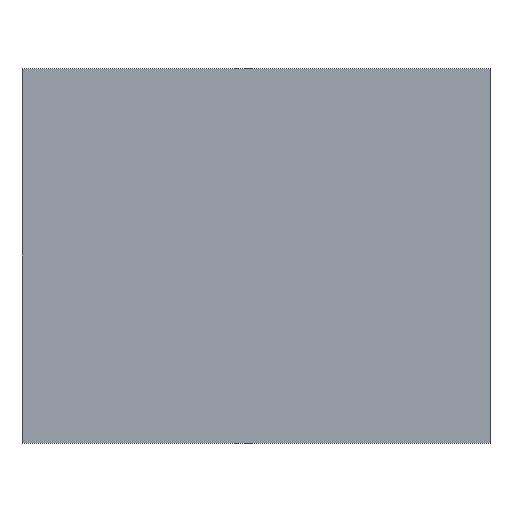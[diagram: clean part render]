
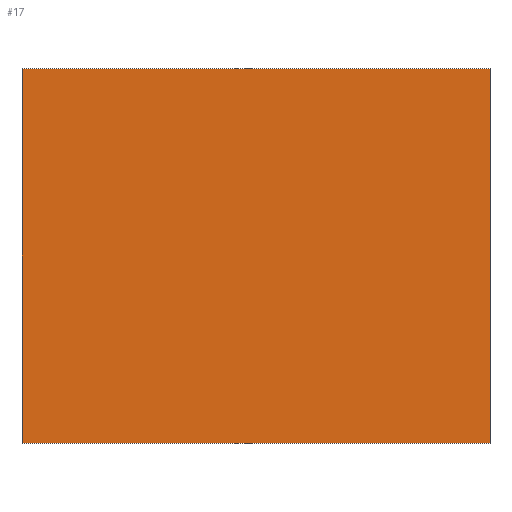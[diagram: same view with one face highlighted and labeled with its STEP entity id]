
A CAD part, front view. The second image highlights one B-rep face of the part: STEP entity #17.
In plain terms, the highlighted planar face has unit normal (0, -1, 0).
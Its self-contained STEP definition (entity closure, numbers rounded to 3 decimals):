
#17 = ADVANCED_FACE('',(#18),#32,.F.);
#18 = FACE_BOUND('',#19,.T.);
#19 = EDGE_LOOP('',(#20,#55,#83,#111));
#20 = ORIENTED_EDGE('',*,*,#21,.F.);
#21 = EDGE_CURVE('',#22,#24,#26,.T.);
#22 = VERTEX_POINT('',#23);
#23 = CARTESIAN_POINT('',(-10.,0.,8.));
#24 = VERTEX_POINT('',#25);
#25 = CARTESIAN_POINT('',(10.,0.,8.));
#26 = SURFACE_CURVE('',#27,(#31,#43),.PCURVE_S1.);
#27 = LINE('',#28,#29);
#28 = CARTESIAN_POINT('',(-10.,0.,8.));
#29 = VECTOR('',#30,1.);
#30 = DIRECTION('',(1.,0.,0.));
#31 = PCURVE('',#32,#37);
#32 = PLANE('',#33);
#33 = AXIS2_PLACEMENT_3D('',#34,#35,#36);
#34 = CARTESIAN_POINT('',(-10.,0.,-8.));
#35 = DIRECTION('',(-0.,1.,0.));
#36 = DIRECTION('',(0.,0.,1.));
#37 = DEFINITIONAL_REPRESENTATION('',(#38),#42);
#38 = LINE('',#39,#40);
#39 = CARTESIAN_POINT('',(16.,0.));
#40 = VECTOR('',#41,1.);
#41 = DIRECTION('',(0.,1.));
#42 = ( GEOMETRIC_REPRESENTATION_CONTEXT(2) 
PARAMETRIC_REPRESENTATION_CONTEXT() REPRESENTATION_CONTEXT('2D SPACE',''
  ) );
#43 = PCURVE('',#44,#49);
#44 = PLANE('',#45);
#45 = AXIS2_PLACEMENT_3D('',#46,#47,#48);
#46 = CARTESIAN_POINT('',(-10.,0.,8.));
#47 = DIRECTION('',(0.,0.,1.));
#48 = DIRECTION('',(1.,0.,-0.));
#49 = DEFINITIONAL_REPRESENTATION('',(#50),#54);
#50 = LINE('',#51,#52);
#51 = CARTESIAN_POINT('',(0.,0.));
#52 = VECTOR('',#53,1.);
#53 = DIRECTION('',(1.,0.));
#54 = ( GEOMETRIC_REPRESENTATION_CONTEXT(2) 
PARAMETRIC_REPRESENTATION_CONTEXT() REPRESENTATION_CONTEXT('2D SPACE',''
  ) );
#55 = ORIENTED_EDGE('',*,*,#56,.F.);
#56 = EDGE_CURVE('',#57,#22,#59,.T.);
#57 = VERTEX_POINT('',#58);
#58 = CARTESIAN_POINT('',(-10.,0.,-8.));
#59 = SURFACE_CURVE('',#60,(#64,#71),.PCURVE_S1.);
#60 = LINE('',#61,#62);
#61 = CARTESIAN_POINT('',(-10.,0.,-8.));
#62 = VECTOR('',#63,1.);
#63 = DIRECTION('',(0.,-0.,1.));
#64 = PCURVE('',#32,#65);
#65 = DEFINITIONAL_REPRESENTATION('',(#66),#70);
#66 = LINE('',#67,#68);
#67 = CARTESIAN_POINT('',(0.,0.));
#68 = VECTOR('',#69,1.);
#69 = DIRECTION('',(1.,0.));
#70 = ( GEOMETRIC_REPRESENTATION_CONTEXT(2) 
PARAMETRIC_REPRESENTATION_CONTEXT() REPRESENTATION_CONTEXT('2D SPACE',''
  ) );
#71 = PCURVE('',#72,#77);
#72 = PLANE('',#73);
#73 = AXIS2_PLACEMENT_3D('',#74,#75,#76);
#74 = CARTESIAN_POINT('',(-10.,0.,-8.));
#75 = DIRECTION('',(1.,0.,-0.));
#76 = DIRECTION('',(-0.,0.,-1.));
#77 = DEFINITIONAL_REPRESENTATION('',(#78),#82);
#78 = LINE('',#79,#80);
#79 = CARTESIAN_POINT('',(0.,0.));
#80 = VECTOR('',#81,1.);
#81 = DIRECTION('',(-1.,0.));
#82 = ( GEOMETRIC_REPRESENTATION_CONTEXT(2) 
PARAMETRIC_REPRESENTATION_CONTEXT() REPRESENTATION_CONTEXT('2D SPACE',''
  ) );
#83 = ORIENTED_EDGE('',*,*,#84,.F.);
#84 = EDGE_CURVE('',#85,#57,#87,.T.);
#85 = VERTEX_POINT('',#86);
#86 = CARTESIAN_POINT('',(10.,0.,-8.));
#87 = SURFACE_CURVE('',#88,(#92,#99),.PCURVE_S1.);
#88 = LINE('',#89,#90);
#89 = CARTESIAN_POINT('',(-10.,0.,-8.));
#90 = VECTOR('',#91,1.);
#91 = DIRECTION('',(-1.,-0.,-0.));
#92 = PCURVE('',#32,#93);
#93 = DEFINITIONAL_REPRESENTATION('',(#94),#98);
#94 = LINE('',#95,#96);
#95 = CARTESIAN_POINT('',(0.,0.));
#96 = VECTOR('',#97,1.);
#97 = DIRECTION('',(-0.,-1.));
#98 = ( GEOMETRIC_REPRESENTATION_CONTEXT(2) 
PARAMETRIC_REPRESENTATION_CONTEXT() REPRESENTATION_CONTEXT('2D SPACE',''
  ) );
#99 = PCURVE('',#100,#105);
#100 = PLANE('',#101);
#101 = AXIS2_PLACEMENT_3D('',#102,#103,#104);
#102 = CARTESIAN_POINT('',(-10.,0.,-8.));
#103 = DIRECTION('',(0.,0.,1.));
#104 = DIRECTION('',(1.,0.,-0.));
#105 = DEFINITIONAL_REPRESENTATION('',(#106),#110);
#106 = LINE('',#107,#108);
#107 = CARTESIAN_POINT('',(0.,0.));
#108 = VECTOR('',#109,1.);
#109 = DIRECTION('',(-1.,0.));
#110 = ( GEOMETRIC_REPRESENTATION_CONTEXT(2) 
PARAMETRIC_REPRESENTATION_CONTEXT() REPRESENTATION_CONTEXT('2D SPACE',''
  ) );
#111 = ORIENTED_EDGE('',*,*,#112,.F.);
#112 = EDGE_CURVE('',#24,#85,#113,.T.);
#113 = SURFACE_CURVE('',#114,(#118,#125),.PCURVE_S1.);
#114 = LINE('',#115,#116);
#115 = CARTESIAN_POINT('',(10.,0.,-8.));
#116 = VECTOR('',#117,1.);
#117 = DIRECTION('',(-0.,0.,-1.));
#118 = PCURVE('',#32,#119);
#119 = DEFINITIONAL_REPRESENTATION('',(#120),#124);
#120 = LINE('',#121,#122);
#121 = CARTESIAN_POINT('',(0.,20.));
#122 = VECTOR('',#123,1.);
#123 = DIRECTION('',(-1.,0.));
#124 = ( GEOMETRIC_REPRESENTATION_CONTEXT(2) 
PARAMETRIC_REPRESENTATION_CONTEXT() REPRESENTATION_CONTEXT('2D SPACE',''
  ) );
#125 = PCURVE('',#126,#131);
#126 = PLANE('',#127);
#127 = AXIS2_PLACEMENT_3D('',#128,#129,#130);
#128 = CARTESIAN_POINT('',(10.,0.,-8.));
#129 = DIRECTION('',(1.,0.,-0.));
#130 = DIRECTION('',(-0.,0.,-1.));
#131 = DEFINITIONAL_REPRESENTATION('',(#132),#136);
#132 = LINE('',#133,#134);
#133 = CARTESIAN_POINT('',(0.,0.));
#134 = VECTOR('',#135,1.);
#135 = DIRECTION('',(1.,0.));
#136 = ( GEOMETRIC_REPRESENTATION_CONTEXT(2) 
PARAMETRIC_REPRESENTATION_CONTEXT() REPRESENTATION_CONTEXT('2D SPACE',''
  ) );
